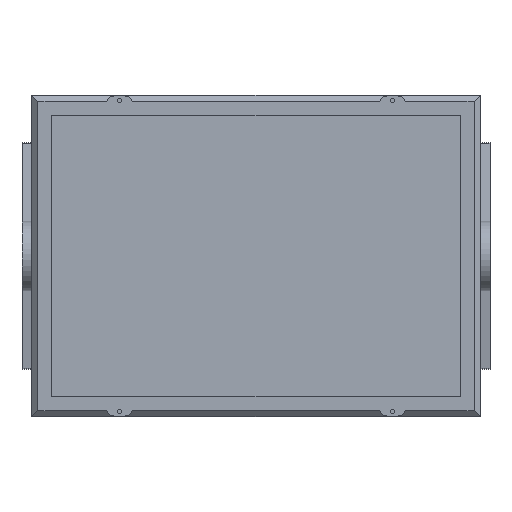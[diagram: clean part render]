
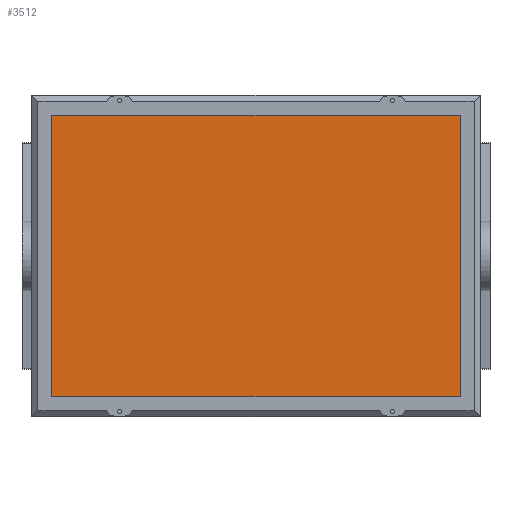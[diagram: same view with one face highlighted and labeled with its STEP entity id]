
A CAD part, front view. The second image highlights one B-rep face of the part: STEP entity #3512.
In plain terms, the highlighted planar face has unit normal (0, -1, 0).
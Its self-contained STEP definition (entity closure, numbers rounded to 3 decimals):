
#2815=DIRECTION('',(0.,0.,-1.));
#2816=VECTOR('',#2815,266.7);
#2817=CARTESIAN_POINT('',(-193.6,-338.2,133.35));
#2818=LINE('',#2817,#2816);
#2819=DIRECTION('',(-1.,0.,0.));
#2820=VECTOR('',#2819,387.2);
#2821=CARTESIAN_POINT('',(193.6,-338.2,133.35));
#2822=LINE('',#2821,#2820);
#2823=DIRECTION('',(0.,0.,1.));
#2824=VECTOR('',#2823,266.7);
#2825=CARTESIAN_POINT('',(193.6,-338.2,-133.35));
#2826=LINE('',#2825,#2824);
#2827=DIRECTION('',(1.,0.,0.));
#2828=VECTOR('',#2827,387.2);
#2829=CARTESIAN_POINT('',(-193.6,-338.2,-133.35));
#2830=LINE('',#2829,#2828);
#3255=CARTESIAN_POINT('',(-193.6,-338.2,133.35));
#3256=CARTESIAN_POINT('',(-193.6,-338.2,-133.35));
#3257=VERTEX_POINT('',#3255);
#3258=VERTEX_POINT('',#3256);
#3259=CARTESIAN_POINT('',(193.6,-338.2,-133.35));
#3260=VERTEX_POINT('',#3259);
#3261=CARTESIAN_POINT('',(193.6,-338.2,133.35));
#3262=VERTEX_POINT('',#3261);
#3501=CARTESIAN_POINT('',(0.,-338.2,0.));
#3502=DIRECTION('',(0.,-1.,0.));
#3503=DIRECTION('',(0.,0.,-1.));
#3504=AXIS2_PLACEMENT_3D('',#3501,#3502,#3503);
#3505=PLANE('',#3504);
#3506=ORIENTED_EDGE('',*,*,#3453,.F.);
#3507=ORIENTED_EDGE('',*,*,#3468,.F.);
#3508=ORIENTED_EDGE('',*,*,#3482,.F.);
#3509=ORIENTED_EDGE('',*,*,#3495,.F.);
#3510=EDGE_LOOP('',(#3506,#3507,#3508,#3509));
#3511=FACE_OUTER_BOUND('',#3510,.F.);
#3453=EDGE_CURVE('',#3257,#3258,#2818,.T.);
#3468=EDGE_CURVE('',#3262,#3257,#2822,.T.);
#3482=EDGE_CURVE('',#3260,#3262,#2826,.T.);
#3495=EDGE_CURVE('',#3258,#3260,#2830,.T.);
#3512=ADVANCED_FACE('',(#3511),#3505,.T.);
